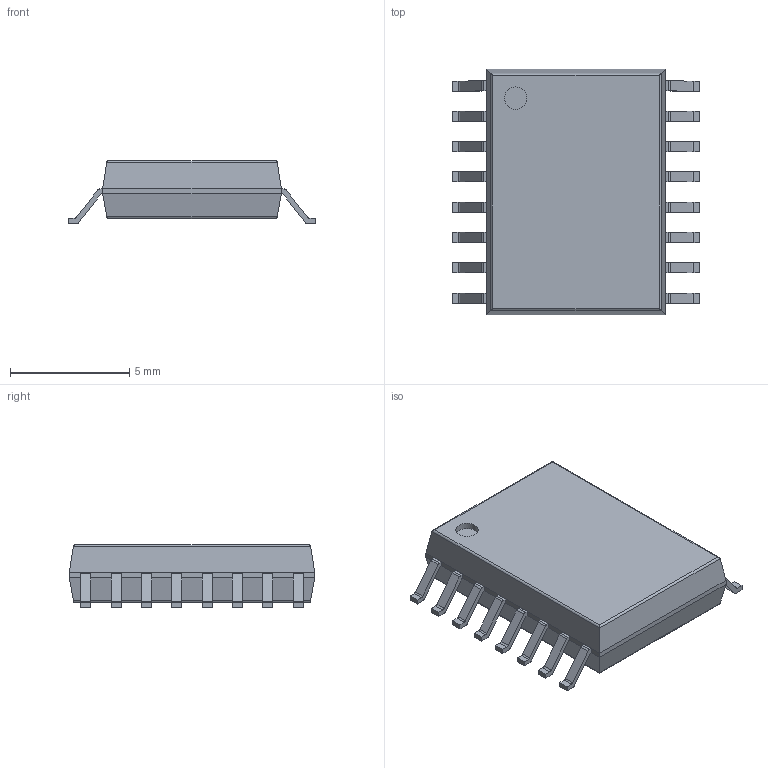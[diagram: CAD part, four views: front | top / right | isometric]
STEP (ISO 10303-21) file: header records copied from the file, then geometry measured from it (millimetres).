
FILE_DESCRIPTION(('FreeCAD Model'),'2;1');
FILE_NAME('/var/www/3D/0T/4796.3.1.stp','2020-04-07T14:15:24',('Author') ,(''),'Open CASCADE STEP processor 6.9','FreeCAD','Unknown');
FILE_SCHEMA(('AUTOMOTIVE_DESIGN { 1 0 10303 214 1 1 1 1 }'));
Length unit declared in the file: millimetre
Products named in the file (3): ASSEMBLY; Body; PinsArrayLR
Assembly tree (2 placements, depth 2):
  ASSEMBLY
    Body
    PinsArrayLR
Bounding box: 10.38 x 10.29 x 2.64 mm (x, y, z)
Volume: 183.6 mm3; surface area: 270.3 mm2
Topology: 17 solids, 17 shells, 232 faces, 575 edges, 378 vertices
Faces by surface type: plane 175, cylinder 57
Full cylindrical faces by diameter (mm): 0.937 x1
Entity records: 14667 total; most frequent: CARTESIAN_POINT 2790, DIRECTION 2201, LINE 1469, VECTOR 1469, ORIENTED_EDGE 1150, PCURVE 1150, DEFINITIONAL_REPRESENTATION 1150, EDGE_CURVE 575
